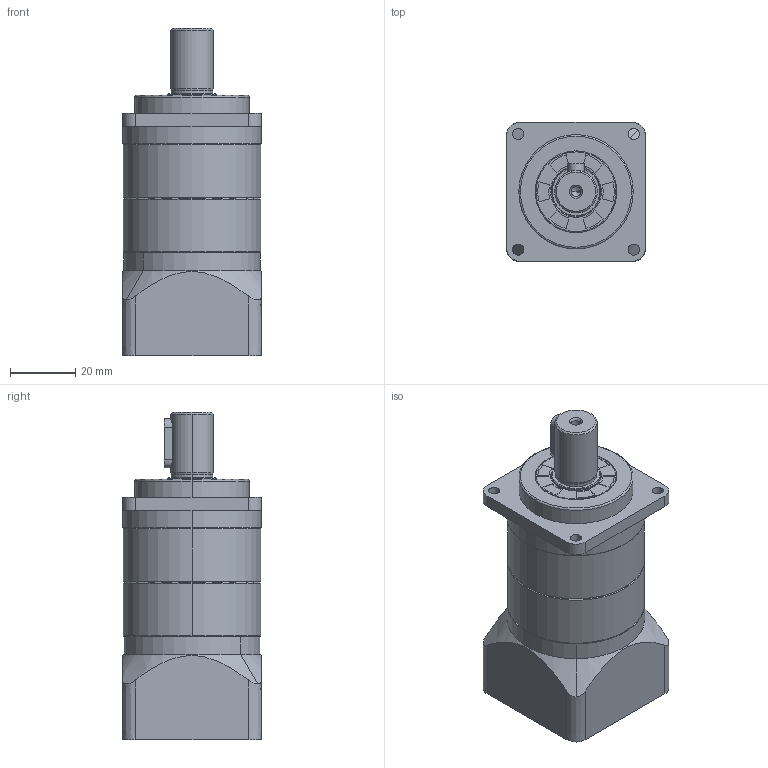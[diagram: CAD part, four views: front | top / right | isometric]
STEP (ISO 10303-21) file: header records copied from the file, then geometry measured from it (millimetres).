
FILE_DESCRIPTION (( 'STEP AP203' ), '1' );
FILE_NAME ('SA42-L2(8-30-46-M4).STEP', '2021-12-14T03:59:30', ( '' ), ( '' ), 'SwSTEP 2.0', 'SolidWorks 2016', '' );
FILE_SCHEMA (( 'CONFIG_CONTROL_DESIGN' ));
Length unit declared in the file: millimetre
Products named in the file (8): SA42-(35x5.5-50-3.4); SN42-26x14x11-M4; SA42-L2(8-30-46-M4); SN42-15x25x4; SN42; SN42-(30-46-M4); SN42-(13x20-5x15); SN42-(8)
Assembly tree (8 placements, depth 2):
  SA42-L2(8-30-46-M4)
    SA42-(35x5.5-50-3.4)
    SN42-(13x20-5x15)
    SN42  x2
    SN42-(30-46-M4)
    SN42-(8)
    SN42-26x14x11-M4
    SN42-15x25x4
Bounding box: 42.5 x 42.5 x 100.1 mm (x, y, z)
Volume: 109565.2 mm3; surface area: 39172.3 mm2
Topology: 9 solids, 9 shells, 404 faces, 996 edges, 622 vertices
Faces by surface type: cylinder 209, plane 97, cone 56, bspline 40, torus 2
Entity records: 24860 total; most frequent: CARTESIAN_POINT 15300, ORIENTED_EDGE 1880, DIRECTION 1731, EDGE_CURVE 940, AXIS2_PLACEMENT_3D 675, VERTEX_POINT 598, EDGE_LOOP 452, FACE_OUTER_BOUND 388
